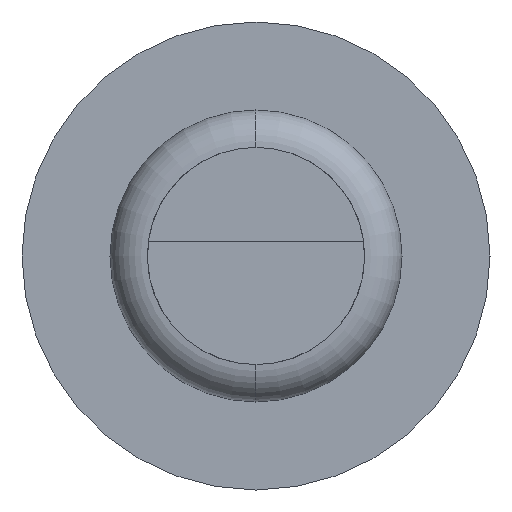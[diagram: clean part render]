
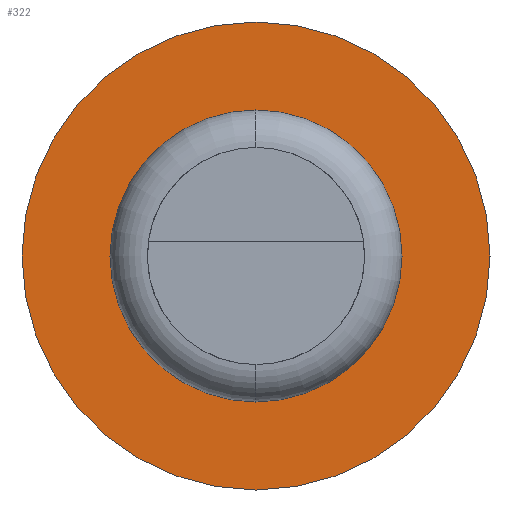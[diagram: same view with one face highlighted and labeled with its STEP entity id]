
A CAD part, left-side view. The second image highlights one B-rep face of the part: STEP entity #322.
In plain terms, the highlighted planar face has unit normal (-1, 0, 0).
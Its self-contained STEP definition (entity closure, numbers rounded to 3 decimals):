
#75=CARTESIAN_POINT('',(-0.4,0.,0.));
#76=DIRECTION('',(1.,0.,0.));
#77=DIRECTION('',(0.,0.,-1.));
#78=AXIS2_PLACEMENT_3D('',#75,#76,#77);
#88=CARTESIAN_POINT('',(-0.4,0.,0.));
#89=DIRECTION('',(-1.,0.,0.));
#90=DIRECTION('',(0.,0.,-1.));
#91=AXIS2_PLACEMENT_3D('',#88,#89,#90);
#93=CARTESIAN_POINT('',(-0.4,0.,0.));
#94=DIRECTION('',(1.,0.,0.));
#95=DIRECTION('',(0.,0.,-1.));
#96=AXIS2_PLACEMENT_3D('',#93,#94,#95);
#98=CARTESIAN_POINT('',(-0.4,0.,0.));
#99=DIRECTION('',(-1.,0.,0.));
#100=DIRECTION('',(0.,0.,-1.));
#101=AXIS2_PLACEMENT_3D('',#98,#99,#100);
#145=CARTESIAN_POINT('',(-0.4,0.,-1.25));
#146=VERTEX_POINT('',#145);
#147=CARTESIAN_POINT('',(-0.4,0.,-0.78));
#149=VERTEX_POINT('',#147);
#159=CARTESIAN_POINT('',(-0.4,0.,1.25));
#160=VERTEX_POINT('',#159);
#161=CARTESIAN_POINT('',(-0.4,0.,0.78));
#163=VERTEX_POINT('',#161);
#307=CARTESIAN_POINT('',(-0.4,0.,0.));
#308=DIRECTION('',(1.,0.,0.));
#309=DIRECTION('',(0.,0.,1.));
#310=AXIS2_PLACEMENT_3D('',#307,#308,#309);
#311=PLANE('',#310);
#313=ORIENTED_EDGE('',*,*,#312,.T.);
#315=ORIENTED_EDGE('',*,*,#314,.F.);
#316=EDGE_LOOP('',(#313,#315));
#317=FACE_OUTER_BOUND('',#316,.F.);
#318=ORIENTED_EDGE('',*,*,#302,.T.);
#319=ORIENTED_EDGE('',*,*,#286,.F.);
#320=EDGE_LOOP('',(#318,#319));
#321=FACE_BOUND('',#320,.F.);
#322=ADVANCED_FACE('',(#317,#321),#311,.F.);
#79=CIRCLE('',#78,0.78);
#92=CIRCLE('',#91,0.78);
#97=CIRCLE('',#96,1.25);
#102=CIRCLE('',#101,1.25);
#286=EDGE_CURVE('',#149,#163,#79,.T.);
#302=EDGE_CURVE('',#149,#163,#92,.T.);
#312=EDGE_CURVE('',#146,#160,#97,.T.);
#314=EDGE_CURVE('',#146,#160,#102,.T.);
